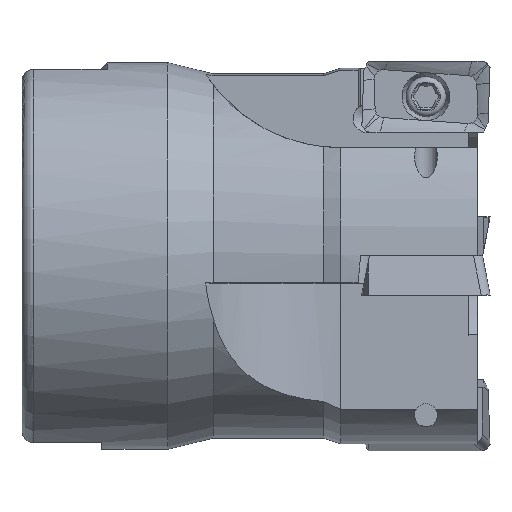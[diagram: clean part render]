
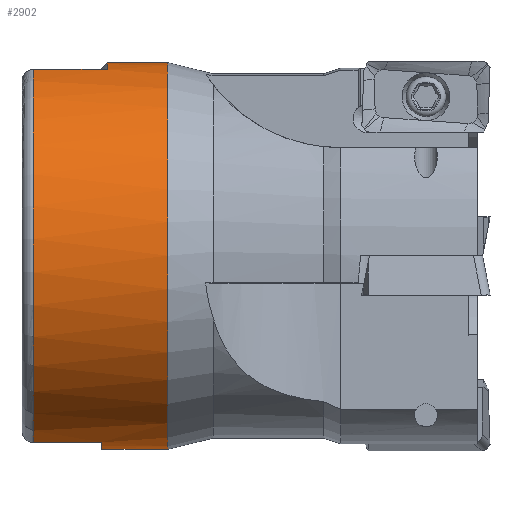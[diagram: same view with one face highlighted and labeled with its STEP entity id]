
A CAD part, top view. The second image highlights one B-rep face of the part: STEP entity #2902.
In plain terms, the highlighted cylindrical face has radius 17 mm (diameter 34 mm), a full revolution.
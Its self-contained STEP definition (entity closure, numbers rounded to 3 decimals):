
#83=CYLINDRICAL_SURFACE('',#3158,17.);
#156=CIRCLE('',#3151,17.);
#159=CIRCLE('',#3159,17.);
#160=CIRCLE('',#3160,17.);
#161=CIRCLE('',#3161,17.);
#162=CIRCLE('',#3162,17.);
#163=CIRCLE('',#3163,17.);
#443=FACE_OUTER_BOUND('',#606,.T.);
#606=EDGE_LOOP('',(#1957,#1958,#1959,#1960,#1961,#1962,#1963,#1964,#1965,
#1966,#1967,#1968));
#769=LINE('',#4347,#962);
#781=LINE('',#4604,#974);
#783=LINE('',#4634,#976);
#784=LINE('',#4637,#977);
#785=LINE('',#4641,#978);
#962=VECTOR('',#3487,10.);
#974=VECTOR('',#3519,10.);
#976=VECTOR('',#3525,17.);
#977=VECTOR('',#3528,10.);
#978=VECTOR('',#3531,10.);
#1152=VERTEX_POINT('',#4340);
#1155=VERTEX_POINT('',#4345);
#1164=VERTEX_POINT('',#4472);
#1174=VERTEX_POINT('',#4569);
#1178=VERTEX_POINT('',#4602);
#1179=VERTEX_POINT('',#4631);
#1180=VERTEX_POINT('',#4633);
#1181=VERTEX_POINT('',#4636);
#1182=VERTEX_POINT('',#4638);
#1183=VERTEX_POINT('',#4640);
#1453=EDGE_CURVE('',#1155,#1152,#769,.T.);
#1466=EDGE_CURVE('',#1164,#1155,#156,.T.);
#1482=EDGE_CURVE('',#1178,#1174,#781,.T.);
#1486=EDGE_CURVE('',#1179,#1179,#159,.T.);
#1487=EDGE_CURVE('',#1179,#1180,#783,.T.);
#1488=EDGE_CURVE('',#1180,#1152,#160,.T.);
#1489=EDGE_CURVE('',#1181,#1164,#784,.T.);
#1490=EDGE_CURVE('',#1182,#1181,#161,.T.);
#1491=EDGE_CURVE('',#1183,#1182,#785,.T.);
#1492=EDGE_CURVE('',#1174,#1183,#162,.T.);
#1493=EDGE_CURVE('',#1178,#1180,#163,.T.);
#1957=ORIENTED_EDGE('',*,*,#1486,.F.);
#1958=ORIENTED_EDGE('',*,*,#1487,.T.);
#1959=ORIENTED_EDGE('',*,*,#1488,.T.);
#1960=ORIENTED_EDGE('',*,*,#1453,.F.);
#1961=ORIENTED_EDGE('',*,*,#1466,.F.);
#1962=ORIENTED_EDGE('',*,*,#1489,.F.);
#1963=ORIENTED_EDGE('',*,*,#1490,.F.);
#1964=ORIENTED_EDGE('',*,*,#1491,.F.);
#1965=ORIENTED_EDGE('',*,*,#1492,.F.);
#1966=ORIENTED_EDGE('',*,*,#1482,.F.);
#1967=ORIENTED_EDGE('',*,*,#1493,.T.);
#1968=ORIENTED_EDGE('',*,*,#1487,.F.);
#2902=ADVANCED_FACE('',(#443),#83,.T.);
#3151=AXIS2_PLACEMENT_3D('',#4486,#3498,#3499);
#3158=AXIS2_PLACEMENT_3D('',#4630,#3521,#3522);
#3159=AXIS2_PLACEMENT_3D('',#4632,#3523,#3524);
#3160=AXIS2_PLACEMENT_3D('',#4635,#3526,#3527);
#3161=AXIS2_PLACEMENT_3D('',#4639,#3529,#3530);
#3162=AXIS2_PLACEMENT_3D('',#4642,#3532,#3533);
#3163=AXIS2_PLACEMENT_3D('',#4643,#3534,#3535);
#3487=DIRECTION('',(1.,0.,0.));
#3498=DIRECTION('center_axis',(-1.,0.,0.));
#3499=DIRECTION('ref_axis',(0.,0.,-1.));
#3519=DIRECTION('',(-1.,0.,0.));
#3521=DIRECTION('center_axis',(1.,0.,0.));
#3522=DIRECTION('ref_axis',(0.,1.,0.));
#3523=DIRECTION('center_axis',(1.,0.,0.));
#3524=DIRECTION('ref_axis',(0.,0.,-1.));
#3525=DIRECTION('',(-1.,0.,0.));
#3526=DIRECTION('center_axis',(1.,0.,0.));
#3527=DIRECTION('ref_axis',(0.,1.,0.));
#3528=DIRECTION('',(-1.,0.,0.));
#3529=DIRECTION('center_axis',(-1.,0.,0.));
#3530=DIRECTION('ref_axis',(0.,1.,0.));
#3531=DIRECTION('',(1.,0.,0.));
#3532=DIRECTION('center_axis',(-1.,0.,0.));
#3533=DIRECTION('ref_axis',(0.,0.,1.));
#3534=DIRECTION('center_axis',(1.,0.,0.));
#3535=DIRECTION('ref_axis',(0.,1.,0.));
#4340=CARTESIAN_POINT('',(-13.7,-16.384,-4.534));
#4345=CARTESIAN_POINT('',(-19.7,-16.384,-4.534));
#4347=CARTESIAN_POINT('',(-14.3,-16.384,-4.534));
#4472=CARTESIAN_POINT('',(-19.7,16.384,-4.534));
#4486=CARTESIAN_POINT('Origin',(-19.7,0.,0.));
#4569=CARTESIAN_POINT('',(-19.7,-16.384,4.534));
#4602=CARTESIAN_POINT('',(-13.7,-16.384,4.534));
#4604=CARTESIAN_POINT('',(-14.3,-16.384,4.534));
#4630=CARTESIAN_POINT('Origin',(-14.3,0.,0.));
#4631=CARTESIAN_POINT('',(-7.9,-17.,0.));
#4632=CARTESIAN_POINT('Origin',(-7.9,0.,0.));
#4633=CARTESIAN_POINT('',(-13.7,-17.,0.));
#4634=CARTESIAN_POINT('',(-14.3,-17.,0.));
#4635=CARTESIAN_POINT('Origin',(-13.7,0.,0.));
#4636=CARTESIAN_POINT('',(-13.2,16.384,-4.534));
#4637=CARTESIAN_POINT('',(-14.3,16.384,-4.534));
#4638=CARTESIAN_POINT('',(-13.2,16.384,4.534));
#4639=CARTESIAN_POINT('Origin',(-13.2,0.,0.));
#4640=CARTESIAN_POINT('',(-19.7,16.384,4.534));
#4641=CARTESIAN_POINT('',(-14.3,16.384,4.534));
#4642=CARTESIAN_POINT('Origin',(-19.7,0.,0.));
#4643=CARTESIAN_POINT('Origin',(-13.7,0.,0.));
